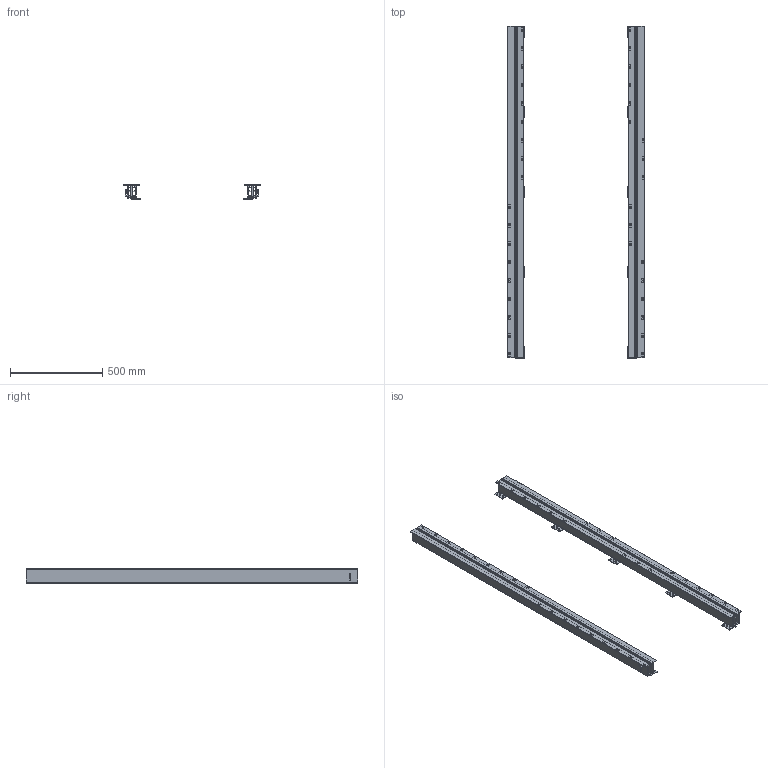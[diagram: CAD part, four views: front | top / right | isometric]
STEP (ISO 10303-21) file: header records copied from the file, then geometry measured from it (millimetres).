
FILE_DESCRIPTION( ( 'STEP AP203' ), '1' );
FILE_NAME( '//10.120.51.241/design/Data Transfer/Nikhil/Trimanis/9133046.stp', ' ', ( ' ' ), ( ' ' ), 'PSStep 15.0.47', 'PARTsolutions', ' ' );
FILE_SCHEMA( ( 'CONFIG_CONTROL_DESIGN' ) );
Length unit declared in the file: millimetre
Products named in the file (3): 95 ; HI_
Assembly tree (2 placements, depth 2):
  95 
    HI_
    HI_
Bounding box: 741 x 1800 x 81 mm (x, y, z)
Volume: 6099470.7 mm3; surface area: 2755857.6 mm2
Topology: 2 solids, 2 shells, 421 faces, 1126 edges, 752 vertices
Faces by surface type: plane 327, cylinder 94
Full cylindrical faces by diameter (mm): 5.1 x86, 8 x4
Entity records: 13006 total; most frequent: CARTESIAN_POINT 2204, DIRECTION 2068, ORIENTED_EDGE 2064, EDGE_CURVE 1032, LINE 844, VECTOR 844, VERTEX_POINT 748, EDGE_LOOP 726
